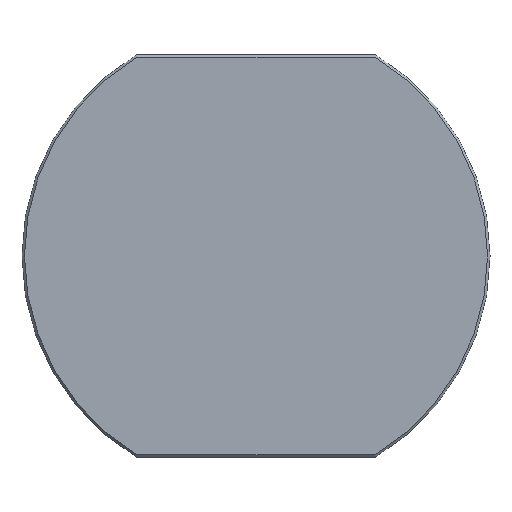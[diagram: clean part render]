
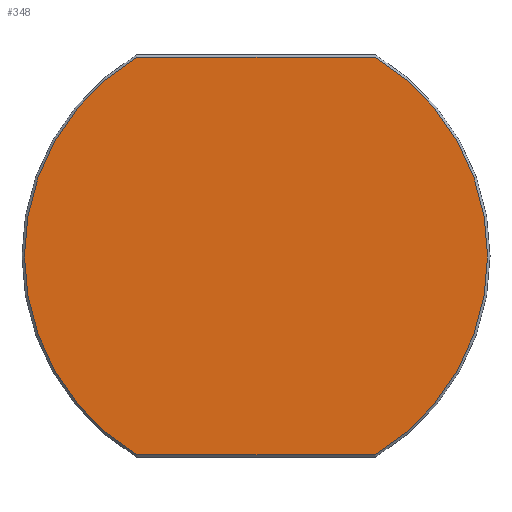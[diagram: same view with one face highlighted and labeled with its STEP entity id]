
A CAD part, top view. The second image highlights one B-rep face of the part: STEP entity #348.
In plain terms, the highlighted planar face has unit normal (0, 0, 1).
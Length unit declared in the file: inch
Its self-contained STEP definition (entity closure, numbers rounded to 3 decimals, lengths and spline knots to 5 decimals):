
#114=CARTESIAN_POINT('',(0.,0.,0.));
#115=DIRECTION('',(0.,0.,-1.));
#116=DIRECTION('',(0.514,0.858,0.));
#117=AXIS2_PLACEMENT_3D('',#114,#115,#116);
#119=DIRECTION('',(1.,0.,0.));
#120=VECTOR('',#119,2.92603);
#121=CARTESIAN_POINT('',(-1.46302,-2.44,
0.));
#122=LINE('',#121,#120);
#123=CARTESIAN_POINT('',(0.,0.,0.));
#124=DIRECTION('',(0.,0.,-1.));
#125=DIRECTION('',(-0.514,-0.858,0.));
#126=AXIS2_PLACEMENT_3D('',#123,#124,#125);
#128=DIRECTION('',(-1.,0.,0.));
#129=VECTOR('',#128,2.92603);
#130=CARTESIAN_POINT('',(1.46302,2.44,0.));
#131=LINE('',#130,#129);
#162=CARTESIAN_POINT('',(1.46301,2.44,0.));
#163=CARTESIAN_POINT('',(1.46301,-2.44,0.));
#164=VERTEX_POINT('',#162);
#165=VERTEX_POINT('',#163);
#170=CARTESIAN_POINT('',(-1.46301,-2.44,0.));
#171=CARTESIAN_POINT('',(-1.46301,2.44,0.));
#172=VERTEX_POINT('',#170);
#173=VERTEX_POINT('',#171);
#335=CARTESIAN_POINT('',(0.,0.,0.));
#336=DIRECTION('',(0.,0.,-1.));
#337=DIRECTION('',(-1.,0.,0.));
#338=AXIS2_PLACEMENT_3D('',#335,#336,#337);
#339=PLANE('',#338);
#341=ORIENTED_EDGE('',*,*,#340,.T.);
#342=ORIENTED_EDGE('',*,*,#314,.F.);
#343=ORIENTED_EDGE('',*,*,#326,.T.);
#345=ORIENTED_EDGE('',*,*,#344,.F.);
#346=EDGE_LOOP('',(#341,#342,#343,#345));
#347=FACE_OUTER_BOUND('',#346,.F.);
#348=ADVANCED_FACE('',(#347),#339,.F.);
#118=CIRCLE('',#117,2.84499);
#127=CIRCLE('',#126,2.84499);
#314=EDGE_CURVE('',#172,#165,#122,.T.);
#326=EDGE_CURVE('',#172,#173,#127,.T.);
#340=EDGE_CURVE('',#164,#165,#118,.T.);
#344=EDGE_CURVE('',#164,#173,#131,.T.);
